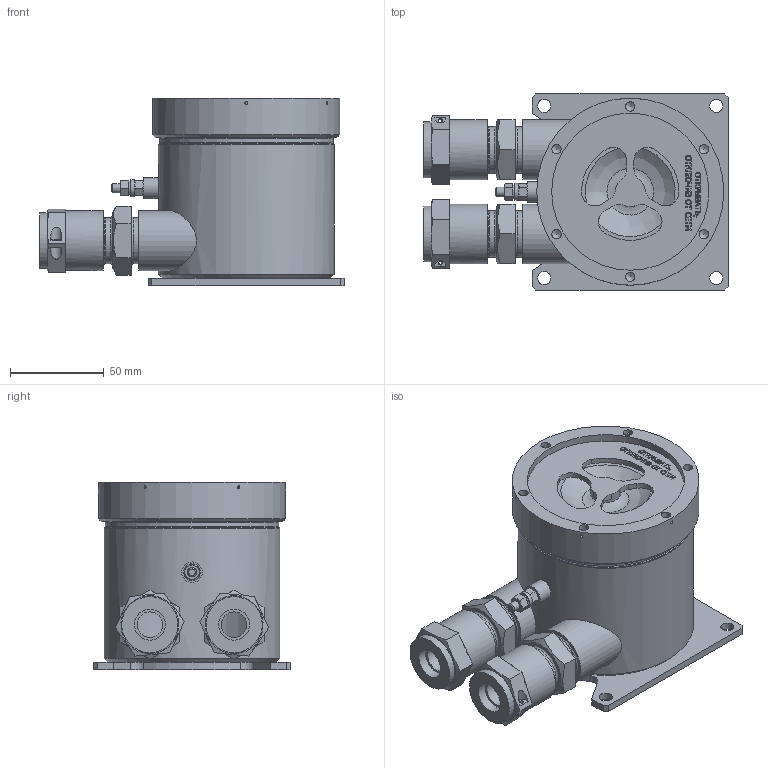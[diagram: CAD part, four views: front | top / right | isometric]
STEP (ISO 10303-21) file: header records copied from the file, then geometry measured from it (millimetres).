
FILE_DESCRIPTION(('STEP AP242'), '1');
FILE_NAME('908.3203.00.000ÑÁ Îáû÷íûå Íåðæàâåéêà', '', ('UNSPECIFIED'), ('UNSPECIFIED'), 'ASCON STEP Converter 1.6', 'ASCON Math Kernel', '');
FILE_SCHEMA(('AP242_MANAGED_MODEL_BASED_3D_ENGINEERING_MIM_LF { 1 0 10303 442 1 1 4 }'));
Length unit declared in the file: millimetre
Bounding box: 163 x 105 x 100 mm (x, y, z)
Volume: 336923.9 mm3; surface area: 129282.8 mm2
Topology: 9 solids, 9 shells, 685 faces, 1744 edges, 1147 vertices
Faces by surface type: plane 368, bspline 145, cylinder 98, cone 57, torus 17
Full cylindrical faces by diameter (mm): 1.5 x6, 2 x2, 3.242 x3, 4.134 x3, 5 x9, 5.3 x3, 7 x4, 9 x4, 11 x1, 13.6 x2, 14 x2, 16 x1, 16.5 x4, 24.5 x2, 24.8 x4, 25.376 x2, 27 x2, 30 x2, 32 x4, 32.5 x2, 46.2 x1, 55 x1, 60 x1, 80 x1, 84 x2, 87 x1, 92.8 x1, 94 x1, 100 x1
Entity records: 32431 total; most frequent: CARTESIAN_POINT 11903, ORIENTED_EDGE 3152, DIRECTION 2556, EDGE_CURVE 1576, VERTEX_POINT 1128, EDGE_LOOP 950, LINE 868, VECTOR 868
